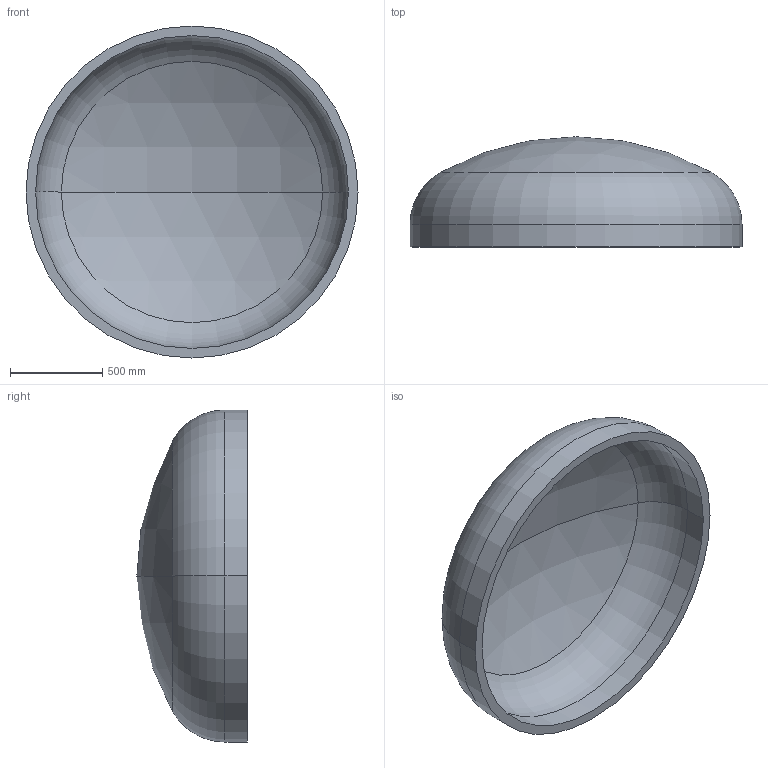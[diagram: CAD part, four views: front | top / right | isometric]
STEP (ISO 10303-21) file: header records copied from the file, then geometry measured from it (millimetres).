
FILE_DESCRIPTION (( 'STEP AP203' ), '1' );
FILE_NAME ('DIN 28013 Korbbogenform_-_Boden DIN 28013 - 1800 x 120 - I - s=52.step', '2016-07-01T12:34:21', ( '' ), ( '' ), 'SwSTEP 2.0', 'SolidWorks 2013', '' );
FILE_SCHEMA (( 'CONFIG_CONTROL_DESIGN' ));
Length unit declared in the file: millimetre
Products named in the file (1): DIN 28013 Korbbogenform_-_Boden DIN 28013 - 1800 x 120 - I - s=52
Bounding box: 1800 x 597.65 x 1800 mm (x, y, z)
Volume: 210459085.2 mm3; surface area: 8385799.2 mm2
Topology: 1 solids, 1 shells, 13 faces, 24 edges, 14 vertices
Faces by surface type: torus 4, cylinder 4, sphere 4, plane 1
Entity records: 407 total; most frequent: DIRECTION 72, CARTESIAN_POINT 52, ORIENTED_EDGE 48, AXIS2_PLACEMENT_3D 34, EDGE_CURVE 24, CIRCLE 20, VERTEX_POINT 14, EDGE_LOOP 14
